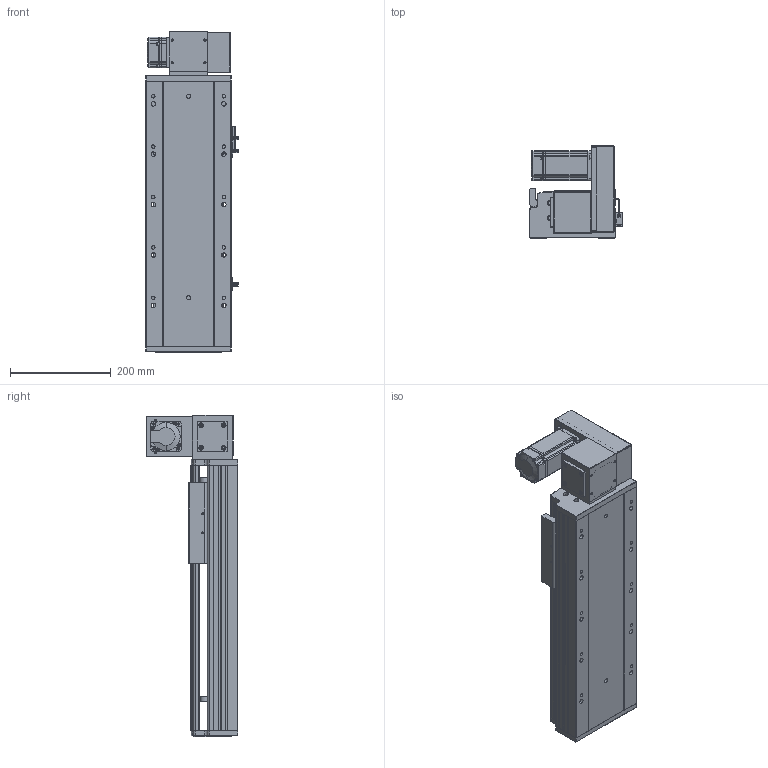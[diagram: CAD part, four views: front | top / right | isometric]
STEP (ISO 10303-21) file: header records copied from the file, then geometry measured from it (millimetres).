
FILE_DESCRIPTION (( 'STEP AP203' ), '1' );
FILE_NAME ('RY170-T-300-UR-P400W.SLDASM_250.step', '2021-03-01T09:26:47', ( '盈信电脑' ), ( '东莞市道滘镇水果街19号' ), 'SwSTEP 2.0', 'SolidWorks 2012', '' );
FILE_SCHEMA (( 'CONFIG_CONTROL_DESIGN' ));
Length unit declared in the file: millimetre
Products named in the file (18): 15; RY170-T-300-UR-P400W.SLDASM_250; RY120-T主同步轮轴承压盖; 滅袉蝶18-10; RY170-T肮祭謫裔啣; RY170-T蹟翐M4; RY170-T肮祭湍揤踡輸1; RY170同步轮电机安装板(400W); RY170-T肮祭湍揤踡輸2; RY170肮祭謫萇儂欶; RY170肮祭謫ヶ裔啣; RY170翋肮祭謫釱; RY170外置感应片(200共用）; 覜茼ん672; RY170-T-300肮祭謫倰第裔啣-DR_250; RY170肮祭湍臏賑輸; RY170綴裔啣; RY170-T-300肮祭謫倰第菁釱-DR_250
Assembly tree (22 placements, depth 2):
  RY170-T-300-UR-P400W.SLDASM_250
    RY170-T-300肮祭謫倰第菁釱-DR_250
    RY170肮祭湍臏賑輸
    RY170-T-300肮祭謫倰第裔啣-DR_250
    RY170綴裔啣
    覜茼ん672  x3
    RY170外置感应片(200共用）
    RY170肮祭謫ヶ裔啣
    RY170翋肮祭謫釱
    RY170同步轮电机安装板(400W)
    RY170肮祭謫萇儂欶
    RY170-T肮祭湍揤踡輸1  x2
    RY170-T肮祭湍揤踡輸2  x2
    RY120-T主同步轮轴承压盖
    RY170-T肮祭謫裔啣
    RY170-T蹟翐M4
    滅袉蝶18-10  x2
    15
Bounding box: 183.7 x 182 x 638 mm (x, y, z)
Volume: 3786664.2 mm3; surface area: 1238082.2 mm2
Topology: 22 solids, 22 shells, 2584 faces, 7118 edges, 4597 vertices
Faces by surface type: plane 1256, cylinder 1110, cone 188, bspline 30
Entity records: 75744 total; most frequent: CARTESIAN_POINT 16306, ORIENTED_EDGE 12040, DIRECTION 11934, EDGE_CURVE 6020, AXIS2_PLACEMENT_3D 4155, VERTEX_POINT 3953, LINE 3624, VECTOR 3624
